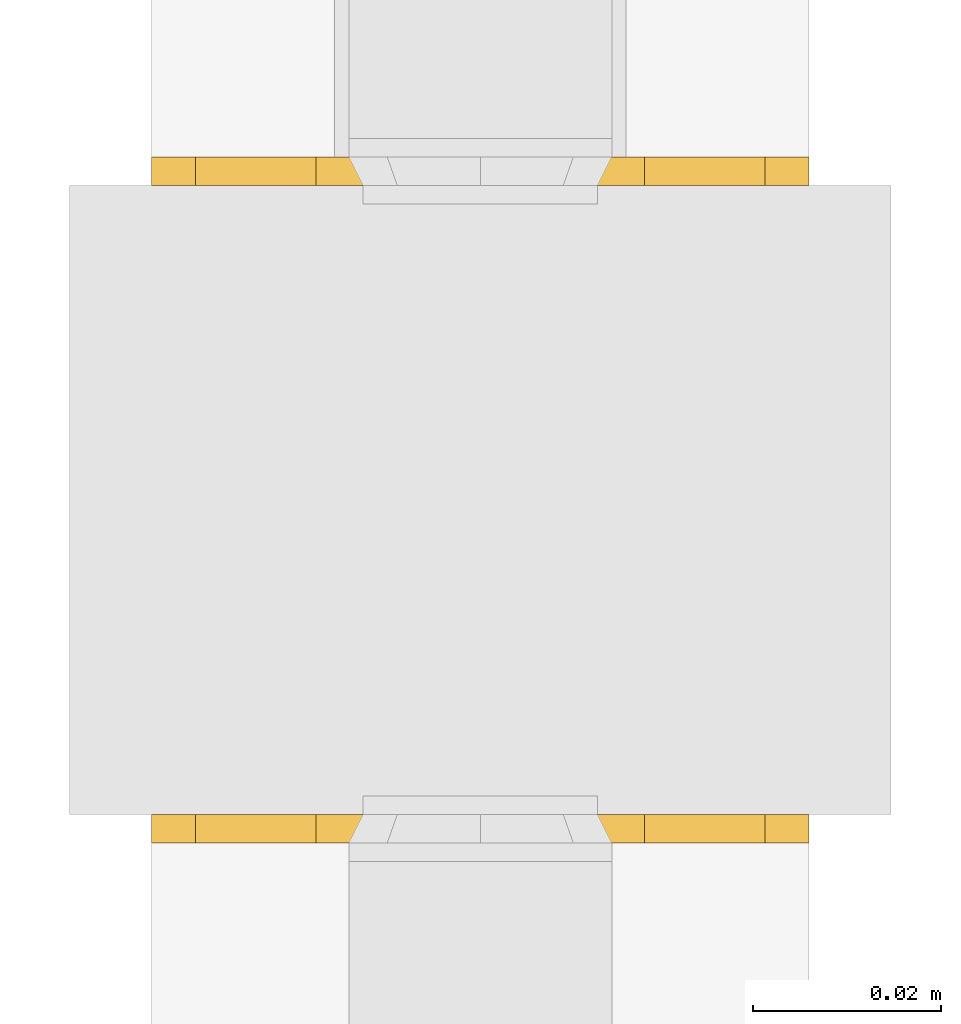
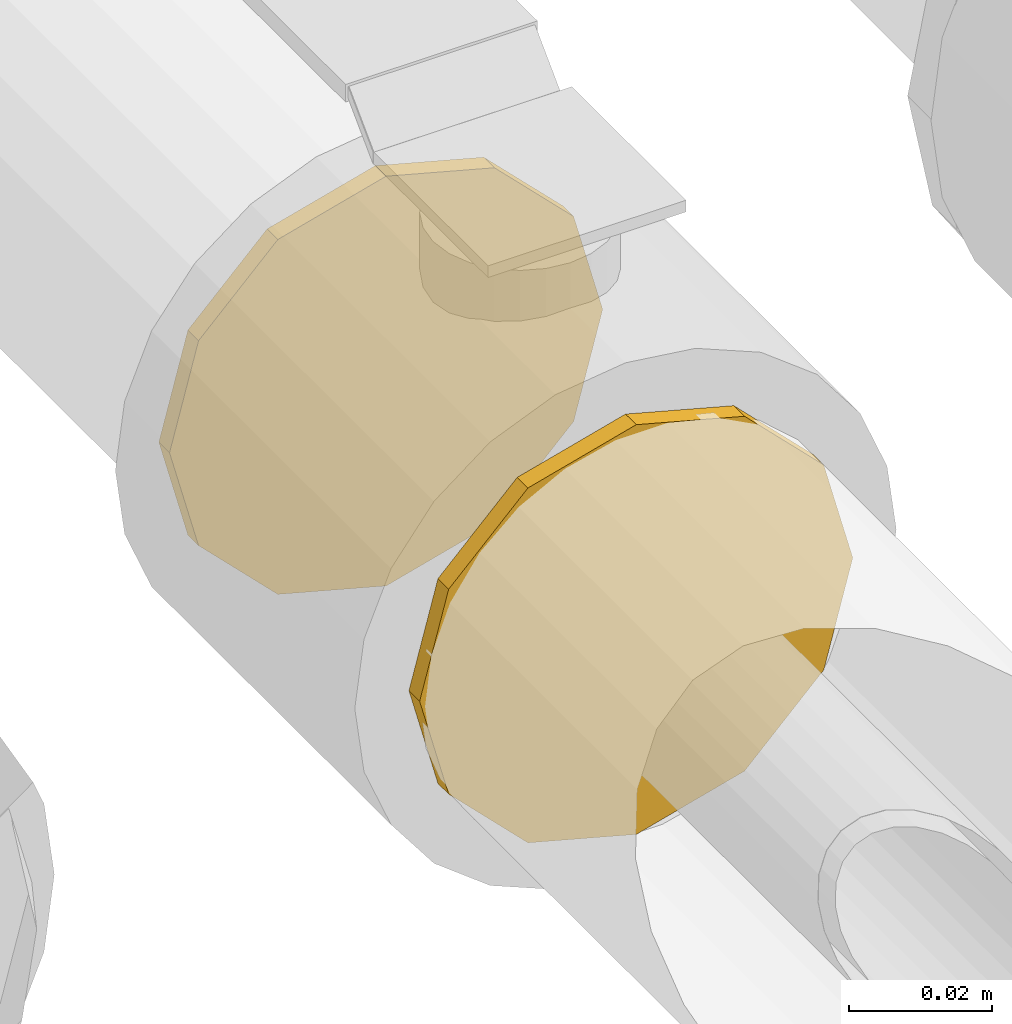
# One storey, part 11 of 83: 2 coverings.
"""IFC2X3 building model written with IfcOpenShell, lengths in millimetres."""

from ifc_helpers import new_model, entity, si_unit, converted_unit, derived_unit, direction, frame, origin_with_axes, place, context, subcontext, project, spatial, open_shell, surface_model, source, transform, mapped, element, save


model = new_model("IFC2X3")

# Units and contexts
model_context = context("Model", 3, precision=0.01, world=frame((0.0, 4.29681676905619e-09, 0.0)), true_north=direction((4.01073788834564e-13, 1.0)))
plan_context = context("Plan", 3, precision=0.01, world=frame((0.0, 4.29681676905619e-09, 0.0)), true_north=direction((4.01073788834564e-13, 1.0)))
body_context = subcontext(model_context, "Body", "Model", "MODEL_VIEW")
ifc_project = project(units=[converted_unit("PLANEANGLEUNIT", "DEGREE", entity("IfcPositiveLengthMeasure", 0.0174532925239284), si_unit("PLANEANGLEUNIT", "RADIAN"), dimensions=[0, 0, 0, 0, 0, 0, 0]), si_unit("AREAUNIT", "SQUARE_METRE"), si_unit("LENGTHUNIT", "METRE", prefix="MILLI"), si_unit("MASSUNIT", "GRAM", prefix="KILO"), si_unit("POWERUNIT", "WATT"), si_unit("PRESSUREUNIT", "PASCAL"), si_unit("FORCEUNIT", "NEWTON", prefix="KILO"), si_unit("ELECTRICVOLTAGEUNIT", "VOLT"), si_unit("ELECTRICCURRENTUNIT", "AMPERE"), si_unit("THERMODYNAMICTEMPERATUREUNIT", "DEGREE_CELSIUS"), si_unit("TIMEUNIT", "SECOND"), si_unit("VOLUMEUNIT", "CUBIC_METRE"), derived_unit("LINEARVELOCITYUNIT", [(si_unit("LENGTHUNIT", "METRE"), 1), (si_unit("TIMEUNIT", "SECOND"), -1)]), derived_unit("VOLUMETRICFLOWRATEUNIT", [(si_unit("VOLUMEUNIT", "CUBIC_METRE"), 1), (si_unit("TIMEUNIT", "SECOND"), -1)]), derived_unit("THERMALTRANSMITTANCEUNIT", [(si_unit("POWERUNIT", "WATT"), 1), (si_unit("THERMODYNAMICTEMPERATUREUNIT", "KELVIN"), -1), (si_unit("AREAUNIT", "SQUARE_METRE"), -1)]), derived_unit("SOUNDPRESSUREUNIT", [(si_unit("PRESSUREUNIT", "PASCAL"), 1)])], contexts=[model_context, plan_context])

# Site, building, storey
site_placement = place(None, frame((0.0, -4.29681676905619e-09, 0.0), z_axis=(0.0, 0.0, 1.0), x_axis=(1.0, 0.0, 0.0)))
site = spatial("IfcSite", under=ifc_project, at=site_placement, Name="ENGM", CompositionType="ELEMENT")
building_placement = place(site_placement, frame((0.0, 4.29681676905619e-09, 0.0), z_axis=(0.0, 0.0, 1.0), x_axis=(1.0, 0.0, 0.0)))
building = spatial("IfcBuilding", under=site, at=building_placement, Name="TI", CompositionType="ELEMENT")
storey_placement = place(building_placement, frame((0.0, 0.0, 204000.0), z_axis=(0.0, 0.0, 1.0), x_axis=(1.0, 0.0, 0.0)))
storey = spatial("IfcBuildingStorey", under=building, at=storey_placement, Name="Nivå D", CompositionType="ELEMENT", Elevation=204000.0)

# Coverings
shared_shape = source(origin_with_axes(), body_context, "Body", "SurfaceModel", [
    surface_model("IfcShellBasedSurfaceModel", [(0.0, -17.5, -30.31089), (0.0, -30.31089, -17.5), (0.0, -35.0, 0.0), (0.0, -17.5, 30.31089), (0.0, 0.0, 35.0), (0.0, 17.5, 30.31089), (0.0, -30.31089, 17.5), (0.0, 30.31089, 17.5), (0.0, 35.0, 0.0), (0.0, 30.31089, -17.5), (0.0, 17.5, -30.31089), (0.0, 0.0, -35.0), (3.0, 17.5, 30.31089), (3.0, -17.5, 30.31089), (3.0, -30.31089, 17.5), (3.0, -30.31089, -17.5), (3.0, 0.0, 35.0), (3.0, 30.31089, 17.5), (3.0, -17.5, -30.31089), (3.0, -35.0, 0.0), (3.0, 0.0, -35.0), (3.0, 17.5, -30.31089), (3.0, 30.31089, -17.5), (3.0, 35.0, 0.0), (3.0, -31.69649, -12.32886), (0.0, -32.65544, -8.75), (3.0, -33.34825, -6.16443), (0.0, -23.90544, -23.90544), (3.0, -8.75, -32.65544), (0.0, -12.32886, -31.69649), (0.0, -6.16443, -33.34825), (3.0, -23.90544, -23.90544), (3.0, 12.32886, -31.69649), (0.0, 8.75, -32.65544), (3.0, 6.16443, -33.34825), (0.0, 23.90544, -23.90544), (3.0, 32.65544, -8.75), (0.0, 31.69649, -12.32886), (0.0, 33.34825, -6.16443), (3.0, 23.90544, -23.90544), (3.0, 31.69649, 12.32886), (0.0, 32.65544, 8.75), (3.0, 33.34825, 6.16443), (0.0, 23.90544, 23.90544), (3.0, 8.75, 32.65544), (0.0, 12.32886, 31.69649), (0.0, 6.16443, 33.34825), (3.0, 23.90544, 23.90544), (3.0, -12.32886, 31.69649), (0.0, -8.75, 32.65544), (3.0, -6.16443, 33.34825), (0.0, -23.90544, 23.90544), (3.0, -32.65544, 8.75), (0.0, -31.69649, 12.32886), (0.0, -33.34825, 6.16443), (3.0, -23.90544, 23.90544)], [open_shell([[[0, 1, 2]], [[3, 4, 5]], [[5, 0, 6]], [[5, 6, 3]], [[2, 6, 0]], [[5, 7, 8]], [[9, 10, 5]], [[10, 0, 5]], [[0, 10, 11]], [[8, 9, 5]], [[12, 13, 14]], [[15, 12, 14]], [[13, 12, 16]], [[17, 12, 18]], [[15, 14, 19]], [[18, 20, 17]], [[20, 21, 17]], [[22, 23, 17]], [[17, 21, 22]], [[18, 12, 15]], [[1, 24, 25]], [[25, 24, 26]], [[2, 25, 26]], [[26, 19, 2]], [[18, 27, 0]], [[28, 29, 30]], [[18, 29, 28]], [[29, 18, 0]], [[27, 18, 31]], [[30, 11, 20]], [[31, 15, 1]], [[31, 1, 27]], [[28, 30, 20]], [[1, 15, 24]], [[10, 32, 33]], [[33, 32, 34]], [[11, 33, 34]], [[34, 20, 11]], [[22, 35, 9]], [[36, 37, 38]], [[22, 37, 36]], [[37, 22, 9]], [[35, 22, 39]], [[38, 8, 23]], [[39, 21, 10]], [[39, 10, 35]], [[36, 38, 23]], [[10, 21, 32]], [[7, 40, 41]], [[41, 40, 42]], [[8, 41, 42]], [[42, 23, 8]], [[12, 43, 5]], [[44, 45, 46]], [[12, 45, 44]], [[45, 12, 5]], [[43, 12, 47]], [[46, 4, 16]], [[47, 17, 7]], [[47, 7, 43]], [[44, 46, 16]], [[7, 17, 40]], [[3, 48, 49]], [[49, 48, 50]], [[4, 49, 50]], [[50, 16, 4]], [[14, 51, 6]], [[52, 53, 54]], [[14, 53, 52]], [[53, 14, 6]], [[51, 14, 55]], [[54, 2, 19]], [[55, 13, 3]], [[55, 3, 51]], [[52, 54, 19]], [[3, 13, 48]]])]),
])
for number, where, z_axis, x_axis in (
    (1, (599881.50429, 698825.97914, 6052.17455), (0.0, 0.0, 1.0), (0.0, -1.0, 0.0)),
    (2, (599881.50429, 698755.97914, 6052.17455), (0.0, 0.0, 1.0), (0.0, -1.0, 0.0)),
):
    element("IfcCovering", number, at=place(storey_placement, frame(where, z_axis=z_axis, x_axis=x_axis)), inside=storey, Name="BI15T - Cellegummi KV 15mm", PredefinedType="INSULATION", context=body_context, shape_type="MappedRepresentation", body=[
        mapped(shared_shape, transform((0.0, 0.0, 0.0), scale=1.0)),
    ])

save(model, "model.ifc")
